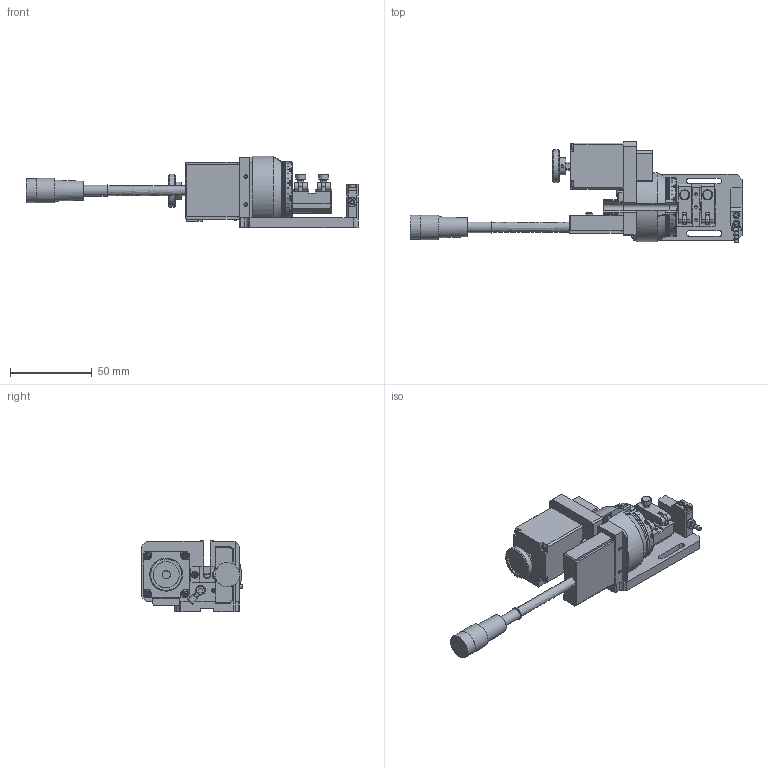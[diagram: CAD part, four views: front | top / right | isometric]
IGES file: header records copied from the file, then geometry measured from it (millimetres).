
Global section: file name: FHRAW-125_250R_IGS; native system: Autodesk Inventor 2021; preprocessor: unknown; author: ta.murata; date: 20230322.182922; units: millimetre
Bounding box: 202.5 x 61.5 x 43.4 mm (x, y, z)
Volume: 114260.1 mm3; surface area: 49235.5 mm2
Topology: 22 solids, 74 shells, 2652 faces, 7173 edges, 4806 vertices
Faces by surface type: bspline 2652
